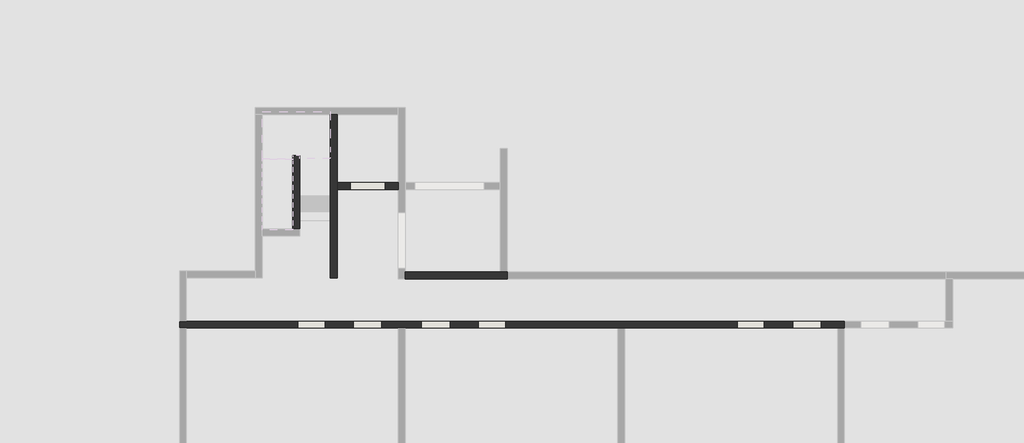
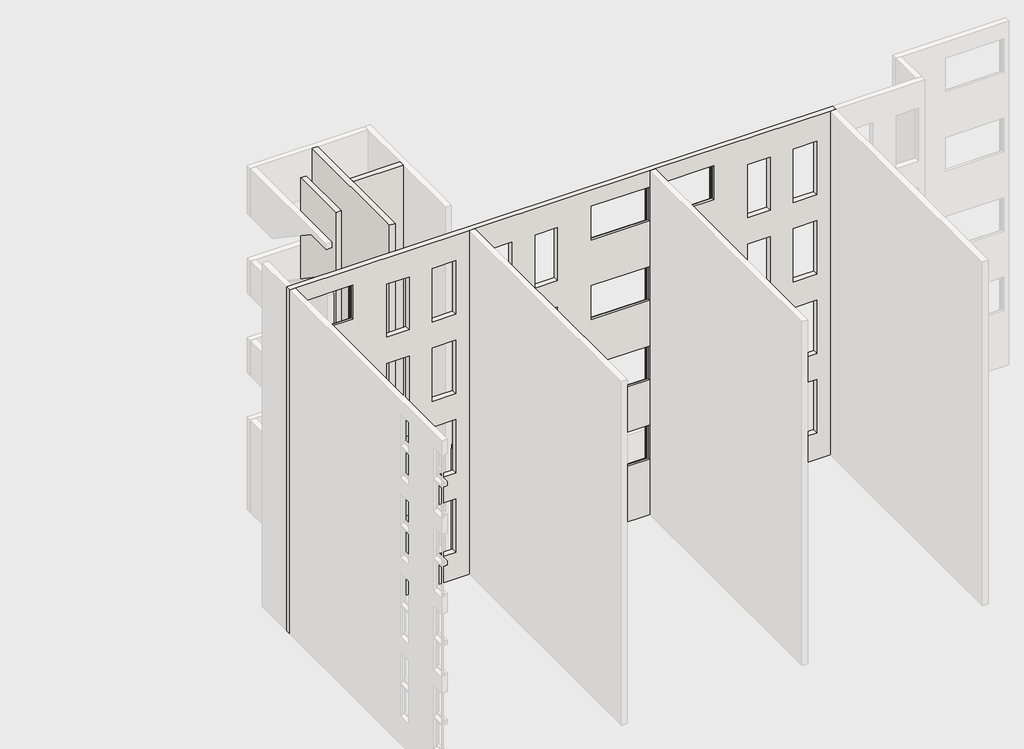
# One storey, part 2 of 4: 5 walls.
"""IFC4 building model written with IfcOpenShell, lengths in millimetres."""

from ifc_helpers import new_model, si_unit, frame, origin, place, context, project, spatial, polyline, outline, extrude, faceted_brep, element, save

model = new_model("IFC4")

# Units and contexts
model_context = context("Model", 3, world=origin())
ifc_project = project(units=[si_unit("LENGTHUNIT", "METRE", prefix="MILLI")], contexts=[model_context])

# Site, building, storey
site = spatial("IfcSite", under=ifc_project)
building = spatial("IfcBuilding", under=site)
storey = spatial("IfcBuildingStorey", under=building, Name="設計GL", Elevation=0.0)

# Walls
placement = place(None, origin())
element("IfcWall", 1, ObjectType="外壁(R)RC200", at=placement, inside=storey, context=model_context, shape_type="Brep", body=[
    faceted_brep([(-11252.4687246, -5826.3671638, -1200.0), (-11052.4687246, -5826.3671638, -1200.0), (-4828.7187246, -5826.3671638, -1200.0), (-4628.7187246, -5826.3671638, -1200.0), (1621.2812754, -5826.3671638, -1200.0), (1821.2812754, -5826.3671638, -1200.0), (8071.2812754, -5826.3671638, -1200.0), (8271.2812754, -5826.3671638, -1200.0), (8271.2812754, -5826.3671638, 13000.0), (8071.2812754, -5826.3671638, 13000.0), (1821.2812754, -5826.3671638, 13000.0), (1621.2812754, -5826.3671638, 13000.0), (-4628.7187246, -5826.3671638, 13000.0), (-4828.7187246, -5826.3671638, 13000.0), (-11052.4687246, -5826.3671638, 13000.0), (-11252.4687246, -5826.3671638, 13000.0), (-6978.7187246, -5826.3671638, 1000.0), (-7778.7187246, -5826.3671638, 1000.0), (-7778.7187246, -5826.3671638, 3000.0), (-6978.7187246, -5826.3671638, 3000.0), (-6148.7187246, -5826.3671638, 3020.0), (-5308.7187246, -5826.3671638, 3020.0), (-5308.7187246, -5826.3671638, 1000.0), (-6148.7187246, -5826.3671638, 1000.0), (-8988.7187246, -5826.3671638, 3385.0), (-8988.7187246, -5826.3671638, 2115.0), (-11068.7187246, -5826.3671638, 2115.0), (-11068.7187246, -5826.3671638, 3385.0), (1611.2812754, -5826.3671638, 3385.0), (1611.2812754, -5826.3671638, 2115.0), (-468.7187246, -5826.3671638, 2115.0), (-468.7187246, -5826.3671638, 3385.0), (-3308.7187246, -5826.3671638, 3020.0), (-3308.7187246, -5826.3671638, 1000.0), (-4148.7187246, -5826.3671638, 1000.0), (-4148.7187246, -5826.3671638, 3020.0), (-2478.7187246, -5826.3671638, 1000.0), (-2478.7187246, -5826.3671638, 3000.0), (-1678.7187246, -5826.3671638, 3000.0), (-1678.7187246, -5826.3671638, 1000.0), (3911.2812754, -5826.3671638, 3385.0), (3911.2812754, -5826.3671638, 2115.0), (1831.2812754, -5826.3671638, 2115.0), (1831.2812754, -5826.3671638, 3385.0), (6751.2812754, -5826.3671638, 3020.0), (7591.2812754, -5826.3671638, 3020.0), (7591.2812754, -5826.3671638, 1000.0), (6751.2812754, -5826.3671638, 1000.0), (5921.2812754, -5826.3671638, 1000.0), (5121.2812754, -5826.3671638, 1000.0), (5121.2812754, -5826.3671638, 3000.0), (5921.2812754, -5826.3671638, 3000.0), (3911.2812754, -5826.3671638, 6385.0), (3911.2812754, -5826.3671638, 5115.0), (1831.2812754, -5826.3671638, 5115.0), (1831.2812754, -5826.3671638, 6385.0), (6751.2812754, -5826.3671638, 6020.0), (7591.2812754, -5826.3671638, 6020.0), (7591.2812754, -5826.3671638, 4000.0), (6751.2812754, -5826.3671638, 4000.0), (5921.2812754, -5826.3671638, 4000.0), (5121.2812754, -5826.3671638, 4000.0), (5121.2812754, -5826.3671638, 6000.0), (5921.2812754, -5826.3671638, 6000.0), (1611.2812754, -5826.3671638, 6385.0), (1611.2812754, -5826.3671638, 5115.0), (-468.7187246, -5826.3671638, 5115.0), (-468.7187246, -5826.3671638, 6385.0), (-3308.7187246, -5826.3671638, 6020.0), (-3308.7187246, -5826.3671638, 4000.0), (-4148.7187246, -5826.3671638, 4000.0), (-4148.7187246, -5826.3671638, 6020.0), (-2478.7187246, -5826.3671638, 4000.0), (-2478.7187246, -5826.3671638, 6000.0), (-1678.7187246, -5826.3671638, 6000.0), (-1678.7187246, -5826.3671638, 4000.0), (-8988.7187246, -5826.3671638, 6385.0), (-8988.7187246, -5826.3671638, 5115.0), (-11068.7187246, -5826.3671638, 5115.0), (-11068.7187246, -5826.3671638, 6385.0), (-6148.7187246, -5826.3671638, 6020.0), (-5308.7187246, -5826.3671638, 6020.0), (-5308.7187246, -5826.3671638, 4000.0), (-6148.7187246, -5826.3671638, 4000.0), (-6978.7187246, -5826.3671638, 4000.0), (-7778.7187246, -5826.3671638, 4000.0), (-7778.7187246, -5826.3671638, 6000.0), (-6978.7187246, -5826.3671638, 6000.0), (3911.2812754, -5826.3671638, 9385.0), (3911.2812754, -5826.3671638, 8115.0), (1831.2812754, -5826.3671638, 8115.0), (1831.2812754, -5826.3671638, 9385.0), (6751.2812754, -5826.3671638, 9020.0), (7591.2812754, -5826.3671638, 9020.0), (7591.2812754, -5826.3671638, 7000.0), (6751.2812754, -5826.3671638, 7000.0), (5921.2812754, -5826.3671638, 7000.0), (5121.2812754, -5826.3671638, 7000.0), (5121.2812754, -5826.3671638, 9000.0), (5921.2812754, -5826.3671638, 9000.0), (1611.2812754, -5826.3671638, 9385.0), (1611.2812754, -5826.3671638, 8115.0), (-468.7187246, -5826.3671638, 8115.0), (-468.7187246, -5826.3671638, 9385.0), (-3308.7187246, -5826.3671638, 9020.0), (-3308.7187246, -5826.3671638, 7000.0), (-4148.7187246, -5826.3671638, 7000.0), (-4148.7187246, -5826.3671638, 9020.0), (-2478.7187246, -5826.3671638, 7000.0), (-2478.7187246, -5826.3671638, 9000.0), (-1678.7187246, -5826.3671638, 9000.0), (-1678.7187246, -5826.3671638, 7000.0), (-8988.7187246, -5826.3671638, 9385.0), (-8988.7187246, -5826.3671638, 8115.0), (-11068.7187246, -5826.3671638, 8115.0), (-11068.7187246, -5826.3671638, 9385.0), (-6148.7187246, -5826.3671638, 9020.0), (-5308.7187246, -5826.3671638, 9020.0), (-5308.7187246, -5826.3671638, 7000.0), (-6148.7187246, -5826.3671638, 7000.0), (-6978.7187246, -5826.3671638, 7000.0), (-7778.7187246, -5826.3671638, 7000.0), (-7778.7187246, -5826.3671638, 9000.0), (-6978.7187246, -5826.3671638, 9000.0), (3911.2812754, -5826.3671638, 12385.0), (3911.2812754, -5826.3671638, 11115.0), (1831.2812754, -5826.3671638, 11115.0), (1831.2812754, -5826.3671638, 12385.0), (6751.2812754, -5826.3671638, 12020.0), (7591.2812754, -5826.3671638, 12020.0), (7591.2812754, -5826.3671638, 10000.0), (6751.2812754, -5826.3671638, 10000.0), (5921.2812754, -5826.3671638, 10000.0), (5121.2812754, -5826.3671638, 10000.0), (5121.2812754, -5826.3671638, 12000.0), (5921.2812754, -5826.3671638, 12000.0), (1611.2812754, -5826.3671638, 12385.0), (1611.2812754, -5826.3671638, 11115.0), (-468.7187246, -5826.3671638, 11115.0), (-468.7187246, -5826.3671638, 12385.0), (-3308.7187246, -5826.3671638, 12020.0), (-3308.7187246, -5826.3671638, 10000.0), (-4148.7187246, -5826.3671638, 10000.0), (-4148.7187246, -5826.3671638, 12020.0), (-2478.7187246, -5826.3671638, 10000.0), (-2478.7187246, -5826.3671638, 12000.0), (-1678.7187246, -5826.3671638, 12000.0), (-1678.7187246, -5826.3671638, 10000.0), (-8988.7187246, -5826.3671638, 12385.0), (-8988.7187246, -5826.3671638, 11115.0), (-11068.7187246, -5826.3671638, 11115.0), (-11068.7187246, -5826.3671638, 12385.0), (-6148.7187246, -5826.3671638, 12020.0), (-5308.7187246, -5826.3671638, 12020.0), (-5308.7187246, -5826.3671638, 10000.0), (-6148.7187246, -5826.3671638, 10000.0), (-6978.7187246, -5826.3671638, 10000.0), (-7778.7187246, -5826.3671638, 10000.0), (-7778.7187246, -5826.3671638, 12000.0), (-6978.7187246, -5826.3671638, 12000.0), (-11252.4687246, -5626.3671638, -1200.0), (-11252.4687246, -5626.3671638, 13000.0), (-11052.4687246, -5626.3671638, 13000.0), (8271.2812754, -5626.3671638, 13000.0), (8271.2812754, -5626.3671638, -1200.0), (-11052.4687246, -5626.3671638, -1200.0), (-6978.7187246, -5626.3671638, 1000.0), (-6978.7187246, -5626.3671638, 3000.0), (-7778.7187246, -5626.3671638, 3000.0), (-7778.7187246, -5626.3671638, 1000.0), (-6148.7187246, -5626.3671638, 3020.0), (-6148.7187246, -5626.3671638, 1000.0), (-5308.7187246, -5626.3671638, 1000.0), (-5308.7187246, -5626.3671638, 3020.0), (-11038.7187246, -5626.3671638, 2025.0), (-9018.7187246, -5626.3671638, 2025.0), (-9018.7187246, -5626.3671638, 3360.0), (-11038.7187246, -5626.3671638, 3360.0), (-438.7187246, -5626.3671638, 2025.0), (1581.2812754, -5626.3671638, 2025.0), (1581.2812754, -5626.3671638, 3360.0), (-438.7187246, -5626.3671638, 3360.0), (-3308.7187246, -5626.3671638, 3020.0), (-4148.7187246, -5626.3671638, 3020.0), (-4148.7187246, -5626.3671638, 1000.0), (-3308.7187246, -5626.3671638, 1000.0), (-2478.7187246, -5626.3671638, 1000.0), (-1678.7187246, -5626.3671638, 1000.0), (-1678.7187246, -5626.3671638, 3000.0), (-2478.7187246, -5626.3671638, 3000.0), (1861.2812754, -5626.3671638, 2025.0), (3881.2812754, -5626.3671638, 2025.0), (3881.2812754, -5626.3671638, 3360.0), (1861.2812754, -5626.3671638, 3360.0), (6751.2812754, -5626.3671638, 3020.0), (6751.2812754, -5626.3671638, 1000.0), (7591.2812754, -5626.3671638, 1000.0), (7591.2812754, -5626.3671638, 3020.0), (5921.2812754, -5626.3671638, 1000.0), (5921.2812754, -5626.3671638, 3000.0), (5121.2812754, -5626.3671638, 3000.0), (5121.2812754, -5626.3671638, 1000.0), (1861.2812754, -5626.3671638, 5025.0), (3881.2812754, -5626.3671638, 5025.0), (3881.2812754, -5626.3671638, 6360.0), (1861.2812754, -5626.3671638, 6360.0), (6751.2812754, -5626.3671638, 6020.0), (6751.2812754, -5626.3671638, 4000.0), (7591.2812754, -5626.3671638, 4000.0), (7591.2812754, -5626.3671638, 6020.0), (5921.2812754, -5626.3671638, 4000.0), (5921.2812754, -5626.3671638, 6000.0), (5121.2812754, -5626.3671638, 6000.0), (5121.2812754, -5626.3671638, 4000.0), (-438.7187246, -5626.3671638, 5025.0), (1581.2812754, -5626.3671638, 5025.0), (1581.2812754, -5626.3671638, 6360.0), (-438.7187246, -5626.3671638, 6360.0), (-3308.7187246, -5626.3671638, 6020.0), (-4148.7187246, -5626.3671638, 6020.0), (-4148.7187246, -5626.3671638, 4000.0), (-3308.7187246, -5626.3671638, 4000.0), (-2478.7187246, -5626.3671638, 4000.0), (-1678.7187246, -5626.3671638, 4000.0), (-1678.7187246, -5626.3671638, 6000.0), (-2478.7187246, -5626.3671638, 6000.0), (-11038.7187246, -5626.3671638, 5025.0), (-9018.7187246, -5626.3671638, 5025.0), (-9018.7187246, -5626.3671638, 6360.0), (-11038.7187246, -5626.3671638, 6360.0), (-6148.7187246, -5626.3671638, 6020.0), (-6148.7187246, -5626.3671638, 4000.0), (-5308.7187246, -5626.3671638, 4000.0), (-5308.7187246, -5626.3671638, 6020.0), (-6978.7187246, -5626.3671638, 4000.0), (-6978.7187246, -5626.3671638, 6000.0), (-7778.7187246, -5626.3671638, 6000.0), (-7778.7187246, -5626.3671638, 4000.0), (1861.2812754, -5626.3671638, 8025.0), (3881.2812754, -5626.3671638, 8025.0), (3881.2812754, -5626.3671638, 9360.0), (1861.2812754, -5626.3671638, 9360.0), (6751.2812754, -5626.3671638, 9020.0), (6751.2812754, -5626.3671638, 7000.0), (7591.2812754, -5626.3671638, 7000.0), (7591.2812754, -5626.3671638, 9020.0), (5921.2812754, -5626.3671638, 7000.0), (5921.2812754, -5626.3671638, 9000.0), (5121.2812754, -5626.3671638, 9000.0), (5121.2812754, -5626.3671638, 7000.0), (-438.7187246, -5626.3671638, 8025.0), (1581.2812754, -5626.3671638, 8025.0), (1581.2812754, -5626.3671638, 9360.0), (-438.7187246, -5626.3671638, 9360.0), (-3308.7187246, -5626.3671638, 9020.0), (-4148.7187246, -5626.3671638, 9020.0), (-4148.7187246, -5626.3671638, 7000.0), (-3308.7187246, -5626.3671638, 7000.0), (-2478.7187246, -5626.3671638, 7000.0), (-1678.7187246, -5626.3671638, 7000.0), (-1678.7187246, -5626.3671638, 9000.0), (-2478.7187246, -5626.3671638, 9000.0), (-11038.7187246, -5626.3671638, 8025.0), (-9018.7187246, -5626.3671638, 8025.0), (-9018.7187246, -5626.3671638, 9360.0), (-11038.7187246, -5626.3671638, 9360.0), (-6148.7187246, -5626.3671638, 9020.0), (-6148.7187246, -5626.3671638, 7000.0), (-5308.7187246, -5626.3671638, 7000.0), (-5308.7187246, -5626.3671638, 9020.0), (-6978.7187246, -5626.3671638, 7000.0), (-6978.7187246, -5626.3671638, 9000.0), (-7778.7187246, -5626.3671638, 9000.0), (-7778.7187246, -5626.3671638, 7000.0), (1861.2812754, -5626.3671638, 11025.0), (3881.2812754, -5626.3671638, 11025.0), (3881.2812754, -5626.3671638, 12360.0), (1861.2812754, -5626.3671638, 12360.0), (6751.2812754, -5626.3671638, 12020.0), (6751.2812754, -5626.3671638, 10000.0), (7591.2812754, -5626.3671638, 10000.0), (7591.2812754, -5626.3671638, 12020.0), (5921.2812754, -5626.3671638, 10000.0), (5921.2812754, -5626.3671638, 12000.0), (5121.2812754, -5626.3671638, 12000.0), (5121.2812754, -5626.3671638, 10000.0), (-438.7187246, -5626.3671638, 11025.0), (1581.2812754, -5626.3671638, 11025.0), (1581.2812754, -5626.3671638, 12360.0), (-438.7187246, -5626.3671638, 12360.0), (-3308.7187246, -5626.3671638, 12020.0), (-4148.7187246, -5626.3671638, 12020.0), (-4148.7187246, -5626.3671638, 10000.0), (-3308.7187246, -5626.3671638, 10000.0), (-2478.7187246, -5626.3671638, 10000.0), (-1678.7187246, -5626.3671638, 10000.0), (-1678.7187246, -5626.3671638, 12000.0), (-2478.7187246, -5626.3671638, 12000.0), (-11038.7187246, -5626.3671638, 11025.0), (-9018.7187246, -5626.3671638, 11025.0), (-9018.7187246, -5626.3671638, 12360.0), (-11038.7187246, -5626.3671638, 12360.0), (-6148.7187246, -5626.3671638, 12020.0), (-6148.7187246, -5626.3671638, 10000.0), (-5308.7187246, -5626.3671638, 10000.0), (-5308.7187246, -5626.3671638, 12020.0), (-6978.7187246, -5626.3671638, 10000.0), (-6978.7187246, -5626.3671638, 12000.0), (-7778.7187246, -5626.3671638, 12000.0), (-7778.7187246, -5626.3671638, 10000.0), (-8988.7187246, -5756.3671638, 3385.0), (-8988.7187246, -5756.3671638, 2115.0), (-11068.7187246, -5756.3671638, 2115.0), (-11068.7187246, -5756.3671638, 3385.0), (-8998.7187246, -5756.3671638, 2115.0), (-11058.7187246, -5756.3671638, 2115.0), (-11058.7187246, -5756.3671638, 3380.0), (-8998.7187246, -5756.3671638, 3380.0), (-8998.7187246, -5686.3671638, 3380.0), (-8998.7187246, -5686.3671638, 2034.2307692), (-8998.7187246, -5756.3671638, 2045.0), (-11058.7187246, -5756.3671638, 2045.0), (-11058.7187246, -5686.3671638, 2034.2307692), (-11058.7187246, -5686.3671638, 3380.0), (-9018.7187246, -5686.3671638, 2034.2307692), (-11038.7187246, -5686.3671638, 2034.2307692), (-11038.7187246, -5686.3671638, 3360.0), (-9018.7187246, -5686.3671638, 3360.0), (1611.2812754, -5756.3671638, 3385.0), (1611.2812754, -5756.3671638, 2115.0), (-468.7187246, -5756.3671638, 2115.0), (-468.7187246, -5756.3671638, 3385.0), (1601.2812754, -5756.3671638, 2115.0), (-458.7187246, -5756.3671638, 2115.0), (-458.7187246, -5756.3671638, 3380.0), (1601.2812754, -5756.3671638, 3380.0), (1601.2812754, -5686.3671638, 3380.0), (1601.2812754, -5686.3671638, 2034.2307692), (1601.2812754, -5756.3671638, 2045.0), (-458.7187246, -5756.3671638, 2045.0), (-458.7187246, -5686.3671638, 2034.2307692), (-458.7187246, -5686.3671638, 3380.0), (1581.2812754, -5686.3671638, 2034.2307692), (-438.7187246, -5686.3671638, 2034.2307692), (-438.7187246, -5686.3671638, 3360.0), (1581.2812754, -5686.3671638, 3360.0), (3911.2812754, -5756.3671638, 3385.0), (3911.2812754, -5756.3671638, 2115.0), (1831.2812754, -5756.3671638, 2115.0), (1831.2812754, -5756.3671638, 3385.0), (3901.2812754, -5756.3671638, 2115.0), (1841.2812754, -5756.3671638, 2115.0), (1841.2812754, -5756.3671638, 3380.0), (3901.2812754, -5756.3671638, 3380.0), (3901.2812754, -5686.3671638, 3380.0), (3901.2812754, -5686.3671638, 2034.2307692), (3901.2812754, -5756.3671638, 2045.0), (1841.2812754, -5756.3671638, 2045.0), (1841.2812754, -5686.3671638, 2034.2307692), (1841.2812754, -5686.3671638, 3380.0), (3881.2812754, -5686.3671638, 2034.2307692), (1861.2812754, -5686.3671638, 2034.2307692), (1861.2812754, -5686.3671638, 3360.0), (3881.2812754, -5686.3671638, 3360.0), (3911.2812754, -5756.3671638, 6385.0), (3911.2812754, -5756.3671638, 5115.0), (1831.2812754, -5756.3671638, 5115.0), (1831.2812754, -5756.3671638, 6385.0), (3901.2812754, -5756.3671638, 5115.0), (1841.2812754, -5756.3671638, 5115.0), (1841.2812754, -5756.3671638, 6380.0), (3901.2812754, -5756.3671638, 6380.0), (3901.2812754, -5686.3671638, 6380.0), (3901.2812754, -5686.3671638, 5034.2307692), (3901.2812754, -5756.3671638, 5045.0), (1841.2812754, -5756.3671638, 5045.0), (1841.2812754, -5686.3671638, 5034.2307692), (1841.2812754, -5686.3671638, 6380.0), (3881.2812754, -5686.3671638, 5034.2307692), (1861.2812754, -5686.3671638, 5034.2307692), (1861.2812754, -5686.3671638, 6360.0), (3881.2812754, -5686.3671638, 6360.0), (1611.2812754, -5756.3671638, 6385.0), (1611.2812754, -5756.3671638, 5115.0), (-468.7187246, -5756.3671638, 5115.0), (-468.7187246, -5756.3671638, 6385.0), (1601.2812754, -5756.3671638, 5115.0), (-458.7187246, -5756.3671638, 5115.0), (-458.7187246, -5756.3671638, 6380.0), (1601.2812754, -5756.3671638, 6380.0), (1601.2812754, -5686.3671638, 6380.0), (1601.2812754, -5686.3671638, 5034.2307692), (1601.2812754, -5756.3671638, 5045.0), (-458.7187246, -5756.3671638, 5045.0), (-458.7187246, -5686.3671638, 5034.2307692), (-458.7187246, -5686.3671638, 6380.0), (1581.2812754, -5686.3671638, 5034.2307692), (-438.7187246, -5686.3671638, 5034.2307692), (-438.7187246, -5686.3671638, 6360.0), (1581.2812754, -5686.3671638, 6360.0), (-8988.7187246, -5756.3671638, 6385.0), (-8988.7187246, -5756.3671638, 5115.0), (-11068.7187246, -5756.3671638, 5115.0), (-11068.7187246, -5756.3671638, 6385.0), (-8998.7187246, -5756.3671638, 5115.0), (-11058.7187246, -5756.3671638, 5115.0), (-11058.7187246, -5756.3671638, 6380.0), (-8998.7187246, -5756.3671638, 6380.0), (-8998.7187246, -5686.3671638, 6380.0), (-8998.7187246, -5686.3671638, 5034.2307692), (-8998.7187246, -5756.3671638, 5045.0), (-11058.7187246, -5756.3671638, 5045.0), (-11058.7187246, -5686.3671638, 5034.2307692), (-11058.7187246, -5686.3671638, 6380.0), (-9018.7187246, -5686.3671638, 5034.2307692), (-11038.7187246, -5686.3671638, 5034.2307692), (-11038.7187246, -5686.3671638, 6360.0), (-9018.7187246, -5686.3671638, 6360.0), (3911.2812754, -5756.3671638, 9385.0), (3911.2812754, -5756.3671638, 8115.0), (1831.2812754, -5756.3671638, 8115.0), (1831.2812754, -5756.3671638, 9385.0), (3901.2812754, -5756.3671638, 8115.0), (1841.2812754, -5756.3671638, 8115.0), (1841.2812754, -5756.3671638, 9380.0), (3901.2812754, -5756.3671638, 9380.0), (3901.2812754, -5686.3671638, 9380.0), (3901.2812754, -5686.3671638, 8034.2307692), (3901.2812754, -5756.3671638, 8045.0), (1841.2812754, -5756.3671638, 8045.0), (1841.2812754, -5686.3671638, 8034.2307692), (1841.2812754, -5686.3671638, 9380.0), (3881.2812754, -5686.3671638, 8034.2307692), (1861.2812754, -5686.3671638, 8034.2307692), (1861.2812754, -5686.3671638, 9360.0), (3881.2812754, -5686.3671638, 9360.0), (1611.2812754, -5756.3671638, 9385.0), (1611.2812754, -5756.3671638, 8115.0), (-468.7187246, -5756.3671638, 8115.0), (-468.7187246, -5756.3671638, 9385.0), (1601.2812754, -5756.3671638, 8115.0), (-458.7187246, -5756.3671638, 8115.0), (-458.7187246, -5756.3671638, 9380.0), (1601.2812754, -5756.3671638, 9380.0), (1601.2812754, -5686.3671638, 9380.0), (1601.2812754, -5686.3671638, 8034.2307692), (1601.2812754, -5756.3671638, 8045.0), (-458.7187246, -5756.3671638, 8045.0), (-458.7187246, -5686.3671638, 8034.2307692), (-458.7187246, -5686.3671638, 9380.0), (1581.2812754, -5686.3671638, 8034.2307692), (-438.7187246, -5686.3671638, 8034.2307692), (-438.7187246, -5686.3671638, 9360.0), (1581.2812754, -5686.3671638, 9360.0), (-8988.7187246, -5756.3671638, 9385.0), (-8988.7187246, -5756.3671638, 8115.0), (-11068.7187246, -5756.3671638, 8115.0), (-11068.7187246, -5756.3671638, 9385.0), (-8998.7187246, -5756.3671638, 8115.0), (-11058.7187246, -5756.3671638, 8115.0), (-11058.7187246, -5756.3671638, 9380.0), (-8998.7187246, -5756.3671638, 9380.0), (-8998.7187246, -5686.3671638, 9380.0), (-8998.7187246, -5686.3671638, 8034.2307692), (-8998.7187246, -5756.3671638, 8045.0), (-11058.7187246, -5756.3671638, 8045.0), (-11058.7187246, -5686.3671638, 8034.2307692), (-11058.7187246, -5686.3671638, 9380.0), (-9018.7187246, -5686.3671638, 8034.2307692), (-11038.7187246, -5686.3671638, 8034.2307692), (-11038.7187246, -5686.3671638, 9360.0), (-9018.7187246, -5686.3671638, 9360.0), (3911.2812754, -5756.3671638, 12385.0), (3911.2812754, -5756.3671638, 11115.0), (1831.2812754, -5756.3671638, 11115.0), (1831.2812754, -5756.3671638, 12385.0), (3901.2812754, -5756.3671638, 11115.0), (1841.2812754, -5756.3671638, 11115.0), (1841.2812754, -5756.3671638, 12380.0), (3901.2812754, -5756.3671638, 12380.0), (3901.2812754, -5686.3671638, 12380.0), (3901.2812754, -5686.3671638, 11034.2307692), (3901.2812754, -5756.3671638, 11045.0), (1841.2812754, -5756.3671638, 11045.0), (1841.2812754, -5686.3671638, 11034.2307692), (1841.2812754, -5686.3671638, 12380.0), (3881.2812754, -5686.3671638, 11034.2307692), (1861.2812754, -5686.3671638, 11034.2307692), (1861.2812754, -5686.3671638, 12360.0), (3881.2812754, -5686.3671638, 12360.0), (1611.2812754, -5756.3671638, 12385.0), (1611.2812754, -5756.3671638, 11115.0), (-468.7187246, -5756.3671638, 11115.0), (-468.7187246, -5756.3671638, 12385.0), (1601.2812754, -5756.3671638, 11115.0), (-458.7187246, -5756.3671638, 11115.0), (-458.7187246, -5756.3671638, 12380.0), (1601.2812754, -5756.3671638, 12380.0), (1601.2812754, -5686.3671638, 12380.0), (1601.2812754, -5686.3671638, 11034.2307692), (1601.2812754, -5756.3671638, 11045.0), (-458.7187246, -5756.3671638, 11045.0), (-458.7187246, -5686.3671638, 11034.2307692), (-458.7187246, -5686.3671638, 12380.0), (1581.2812754, -5686.3671638, 11034.2307692), (-438.7187246, -5686.3671638, 11034.2307692), (-438.7187246, -5686.3671638, 12360.0), (1581.2812754, -5686.3671638, 12360.0), (-8988.7187246, -5756.3671638, 12385.0), (-8988.7187246, -5756.3671638, 11115.0), (-11068.7187246, -5756.3671638, 11115.0), (-11068.7187246, -5756.3671638, 12385.0), (-8998.7187246, -5756.3671638, 11115.0), (-11058.7187246, -5756.3671638, 11115.0), (-11058.7187246, -5756.3671638, 12380.0), (-8998.7187246, -5756.3671638, 12380.0), (-8998.7187246, -5686.3671638, 12380.0), (-8998.7187246, -5686.3671638, 11034.2307692), (-8998.7187246, -5756.3671638, 11045.0), (-11058.7187246, -5756.3671638, 11045.0), (-11058.7187246, -5686.3671638, 11034.2307692), (-11058.7187246, -5686.3671638, 12380.0), (-9018.7187246, -5686.3671638, 11034.2307692), (-11038.7187246, -5686.3671638, 11034.2307692), (-11038.7187246, -5686.3671638, 12360.0), (-9018.7187246, -5686.3671638, 12360.0)], [[[0, 1, 2, 3, 4, 5, 6, 7, 8, 9, 10, 11, 12, 13, 14, 15], [16, 17, 18, 19], [20, 21, 22, 23], [24, 25, 26, 27], [28, 29, 30, 31], [32, 33, 34, 35], [36, 37, 38, 39], [40, 41, 42, 43], [44, 45, 46, 47], [48, 49, 50, 51], [52, 53, 54, 55], [56, 57, 58, 59], [60, 61, 62, 63], [64, 65, 66, 67], [68, 69, 70, 71], [72, 73, 74, 75], [76, 77, 78, 79], [80, 81, 82, 83], [84, 85, 86, 87], [88, 89, 90, 91], [92, 93, 94, 95], [96, 97, 98, 99], [100, 101, 102, 103], [104, 105, 106, 107], [108, 109, 110, 111], [112, 113, 114, 115], [116, 117, 118, 119], [120, 121, 122, 123], [124, 125, 126, 127], [128, 129, 130, 131], [132, 133, 134, 135], [136, 137, 138, 139], [140, 141, 142, 143], [144, 145, 146, 147], [148, 149, 150, 151], [152, 153, 154, 155], [156, 157, 158, 159]], [[160, 161, 162, 163, 164, 165], [166, 167, 168, 169], [170, 171, 172, 173], [174, 175, 176, 177], [178, 179, 180, 181], [182, 183, 184, 185], [186, 187, 188, 189], [190, 191, 192, 193], [194, 195, 196, 197], [198, 199, 200, 201], [202, 203, 204, 205], [206, 207, 208, 209], [210, 211, 212, 213], [214, 215, 216, 217], [218, 219, 220, 221], [222, 223, 224, 225], [226, 227, 228, 229], [230, 231, 232, 233], [234, 235, 236, 237], [238, 239, 240, 241], [242, 243, 244, 245], [246, 247, 248, 249], [250, 251, 252, 253], [254, 255, 256, 257], [258, 259, 260, 261], [262, 263, 264, 265], [266, 267, 268, 269], [270, 271, 272, 273], [274, 275, 276, 277], [278, 279, 280, 281], [282, 283, 284, 285], [286, 287, 288, 289], [290, 291, 292, 293], [294, 295, 296, 297], [298, 299, 300, 301], [302, 303, 304, 305], [306, 307, 308, 309]], [[7, 6, 5, 4, 3, 2, 1, 0, 160, 165, 164]], [[15, 14, 13, 12, 11, 10, 9, 8, 163, 162, 161]], [[167, 166, 16, 19]], [[168, 167, 19, 18]], [[169, 168, 18, 17]], [[166, 169, 17, 16]], [[171, 170, 20, 23]], [[172, 171, 23, 22]], [[173, 172, 22, 21]], [[170, 173, 21, 20]], [[310, 311, 25, 24]], [[312, 313, 27, 26]], [[25, 311, 314, 315, 312, 26]], [[311, 310, 313, 312, 315, 316, 317, 314]], [[313, 310, 24, 27]], [[317, 318, 319, 320, 314]], [[321, 322, 323, 316, 315]], [[320, 319, 324, 175, 174, 325, 322, 321]], [[319, 318, 323, 322, 325, 326, 327, 324]], [[318, 317, 316, 323]], [[320, 321, 315, 314]], [[327, 176, 175, 324]], [[325, 174, 177, 326]], [[176, 327, 326, 177]], [[328, 329, 29, 28]], [[330, 331, 31, 30]], [[29, 329, 332, 333, 330, 30]], [[329, 328, 331, 330, 333, 334, 335, 332]], [[331, 328, 28, 31]], [[335, 336, 337, 338, 332]], [[339, 340, 341, 334, 333]], [[338, 337, 342, 179, 178, 343, 340, 339]], [[337, 336, 341, 340, 343, 344, 345, 342]], [[336, 335, 334, 341]], [[338, 339, 333, 332]], [[345, 180, 179, 342]], [[343, 178, 181, 344]], [[180, 345, 344, 181]], [[33, 32, 182, 185]], [[34, 33, 185, 184]], [[35, 34, 184, 183]], [[32, 35, 183, 182]], [[37, 36, 186, 189]], [[38, 37, 189, 188]], [[39, 38, 188, 187]], [[36, 39, 187, 186]], [[346, 347, 41, 40]], [[348, 349, 43, 42]], [[41, 347, 350, 351, 348, 42]], [[347, 346, 349, 348, 351, 352, 353, 350]], [[349, 346, 40, 43]], [[353, 354, 355, 356, 350]], [[357, 358, 359, 352, 351]], [[356, 355, 360, 191, 190, 361, 358, 357]], [[355, 354, 359, 358, 361, 362, 363, 360]], [[354, 353, 352, 359]], [[356, 357, 351, 350]], [[363, 192, 191, 360]], [[361, 190, 193, 362]], [[192, 363, 362, 193]], [[195, 194, 44, 47]], [[196, 195, 47, 46]], [[197, 196, 46, 45]], [[194, 197, 45, 44]], [[199, 198, 48, 51]], [[200, 199, 51, 50]], [[201, 200, 50, 49]], [[198, 201, 49, 48]], [[8, 7, 164, 163]], [[364, 365, 53, 52]], [[366, 367, 55, 54]], [[53, 365, 368, 369, 366, 54]], [[365, 364, 367, 366, 369, 370, 371, 368]], [[367, 364, 52, 55]], [[371, 372, 373, 374, 368]], [[375, 376, 377, 370, 369]], [[374, 373, 378, 203, 202, 379, 376, 375]], [[373, 372, 377, 376, 379, 380, 381, 378]], [[372, 371, 370, 377]], [[374, 375, 369, 368]], [[381, 204, 203, 378]], [[379, 202, 205, 380]], [[204, 381, 380, 205]], [[207, 206, 56, 59]], [[208, 207, 59, 58]], [[209, 208, 58, 57]], [[206, 209, 57, 56]], [[211, 210, 60, 63]], [[212, 211, 63, 62]], [[213, 212, 62, 61]], [[210, 213, 61, 60]], [[382, 383, 65, 64]], [[384, 385, 67, 66]], [[65, 383, 386, 387, 384, 66]], [[383, 382, 385, 384, 387, 388, 389, 386]], [[385, 382, 64, 67]], [[389, 390, 391, 392, 386]], [[393, 394, 395, 388, 387]], [[392, 391, 396, 215, 214, 397, 394, 393]], [[391, 390, 395, 394, 397, 398, 399, 396]], [[390, 389, 388, 395]], [[392, 393, 387, 386]], [[399, 216, 215, 396]], [[397, 214, 217, 398]], [[216, 399, 398, 217]], [[69, 68, 218, 221]], [[70, 69, 221, 220]], [[71, 70, 220, 219]], [[68, 71, 219, 218]], [[73, 72, 222, 225]], [[74, 73, 225, 224]], [[75, 74, 224, 223]], [[72, 75, 223, 222]], [[400, 401, 77, 76]], [[402, 403, 79, 78]], [[77, 401, 404, 405, 402, 78]], [[401, 400, 403, 402, 405, 406, 407, 404]], [[403, 400, 76, 79]], [[407, 408, 409, 410, 404]], [[411, 412, 413, 406, 405]], [[410, 409, 414, 227, 226, 415, 412, 411]], [[409, 408, 413, 412, 415, 416, 417, 414]], [[408, 407, 406, 413]], [[410, 411, 405, 404]], [[417, 228, 227, 414]], [[415, 226, 229, 416]], [[228, 417, 416, 229]], [[231, 230, 80, 83]], [[232, 231, 83, 82]], [[233, 232, 82, 81]], [[230, 233, 81, 80]], [[235, 234, 84, 87]], [[236, 235, 87, 86]], [[237, 236, 86, 85]], [[234, 237, 85, 84]], [[418, 419, 89, 88]], [[420, 421, 91, 90]], [[89, 419, 422, 423, 420, 90]], [[419, 418, 421, 420, 423, 424, 425, 422]], [[421, 418, 88, 91]], [[425, 426, 427, 428, 422]], [[429, 430, 431, 424, 423]], [[428, 427, 432, 239, 238, 433, 430, 429]], [[427, 426, 431, 430, 433, 434, 435, 432]], [[426, 425, 424, 431]], [[428, 429, 423, 422]], [[435, 240, 239, 432]], [[433, 238, 241, 434]], [[240, 435, 434, 241]], [[243, 242, 92, 95]], [[244, 243, 95, 94]], [[245, 244, 94, 93]], [[242, 245, 93, 92]], [[247, 246, 96, 99]], [[248, 247, 99, 98]], [[249, 248, 98, 97]], [[246, 249, 97, 96]], [[436, 437, 101, 100]], [[438, 439, 103, 102]], [[101, 437, 440, 441, 438, 102]], [[437, 436, 439, 438, 441, 442, 443, 440]], [[439, 436, 100, 103]], [[443, 444, 445, 446, 440]], [[447, 448, 449, 442, 441]], [[446, 445, 450, 251, 250, 451, 448, 447]], [[445, 444, 449, 448, 451, 452, 453, 450]], [[444, 443, 442, 449]], [[446, 447, 441, 440]], [[453, 252, 251, 450]], [[451, 250, 253, 452]], [[252, 453, 452, 253]], [[105, 104, 254, 257]], [[106, 105, 257, 256]], [[107, 106, 256, 255]], [[104, 107, 255, 254]], [[109, 108, 258, 261]], [[110, 109, 261, 260]], [[111, 110, 260, 259]], [[108, 111, 259, 258]], [[454, 455, 113, 112]], [[456, 457, 115, 114]], [[113, 455, 458, 459, 456, 114]], [[455, 454, 457, 456, 459, 460, 461, 458]], [[457, 454, 112, 115]], [[461, 462, 463, 464, 458]], [[465, 466, 467, 460, 459]], [[464, 463, 468, 263, 262, 469, 466, 465]], [[463, 462, 467, 466, 469, 470, 471, 468]], [[462, 461, 460, 467]], [[464, 465, 459, 458]], [[471, 264, 263, 468]], [[469, 262, 265, 470]], [[264, 471, 470, 265]], [[267, 266, 116, 119]], [[268, 267, 119, 118]], [[269, 268, 118, 117]], [[266, 269, 117, 116]], [[271, 270, 120, 123]], [[272, 271, 123, 122]], [[273, 272, 122, 121]], [[270, 273, 121, 120]], [[472, 473, 125, 124]], [[474, 475, 127, 126]], [[125, 473, 476, 477, 474, 126]], [[473, 472, 475, 474, 477, 478, 479, 476]], [[475, 472, 124, 127]], [[479, 480, 481, 482, 476]], [[483, 484, 485, 478, 477]], [[482, 481, 486, 275, 274, 487, 484, 483]], [[481, 480, 485, 484, 487, 488, 489, 486]], [[480, 479, 478, 485]], [[482, 483, 477, 476]], [[489, 276, 275, 486]], [[487, 274, 277, 488]], [[276, 489, 488, 277]], [[279, 278, 128, 131]], [[280, 279, 131, 130]], [[281, 280, 130, 129]], [[278, 281, 129, 128]], [[283, 282, 132, 135]], [[284, 283, 135, 134]], [[285, 284, 134, 133]], [[282, 285, 133, 132]], [[490, 491, 137, 136]], [[492, 493, 139, 138]], [[137, 491, 494, 495, 492, 138]], [[491, 490, 493, 492, 495, 496, 497, 494]], [[493, 490, 136, 139]], [[497, 498, 499, 500, 494]], [[501, 502, 503, 496, 495]], [[500, 499, 504, 287, 286, 505, 502, 501]], [[499, 498, 503, 502, 505, 506, 507, 504]], [[498, 497, 496, 503]], [[500, 501, 495, 494]], [[507, 288, 287, 504]], [[505, 286, 289, 506]], [[288, 507, 506, 289]], [[141, 140, 290, 293]], [[142, 141, 293, 292]], [[143, 142, 292, 291]], [[140, 143, 291, 290]], [[145, 144, 294, 297]], [[146, 145, 297, 296]], [[147, 146, 296, 295]], [[144, 147, 295, 294]], [[508, 509, 149, 148]], [[510, 511, 151, 150]], [[149, 509, 512, 513, 510, 150]], [[509, 508, 511, 510, 513, 514, 515, 512]], [[511, 508, 148, 151]], [[515, 516, 517, 518, 512]], [[519, 520, 521, 514, 513]], [[518, 517, 522, 299, 298, 523, 520, 519]], [[517, 516, 521, 520, 523, 524, 525, 522]], [[516, 515, 514, 521]], [[518, 519, 513, 512]], [[525, 300, 299, 522]], [[523, 298, 301, 524]], [[300, 525, 524, 301]], [[303, 302, 152, 155]], [[304, 303, 155, 154]], [[305, 304, 154, 153]], [[302, 305, 153, 152]], [[307, 306, 156, 159]], [[308, 307, 159, 158]], [[309, 308, 158, 157]], [[306, 309, 157, 156]], [[0, 15, 161, 160]]]),
])
element("IfcWall", 2, ObjectType="(R)RC200", at=placement, inside=storey, context=model_context, shape_type="Brep", body=[
    faceted_brep([(-7928.7187246, -750.1171638, -1200.0), (-7928.7187246, -2920.1171638, -1200.0), (-7928.7187246, -2920.1171638, 13000.0), (-7928.7187246, -750.1171638, 13000.0), (-7728.7187246, -750.1171638, -1200.0), (-7728.7187246, -750.1171638, 13000.0), (-7728.7187246, -2920.1171638, 13000.0), (-7728.7187246, -2920.1171638, 11100.0), (-7728.7187246, -2920.1171638, 9950.0), (-7728.7187246, -2920.1171638, 4000.0), (-7728.7187246, -2920.1171638, -1200.0)], [[[0, 1, 2, 3]], [[4, 5, 6, 7, 8, 9, 10]], [[1, 0, 4, 10]], [[3, 2, 6, 5]], [[0, 3, 5, 4]], [[1, 10, 9, 8, 7, 6, 2]]]),
])
element("IfcWall", 3, ObjectType="(R)RC200", at=placement, inside=storey, context=model_context, shape_type="Brep", body=[
    faceted_brep([(-6828.7187246, 449.8828362, 13000.0), (-6828.7187246, 449.8828362, 11181.7647059), (-6828.7187246, 449.8828362, 9500.0), (-6828.7187246, 449.8828362, 8181.7647059), (-6828.7187246, 449.8828362, 6500.0), (-6828.7187246, 449.8828362, 5181.7647059), (-6828.7187246, 449.8828362, 3500.0), (-6828.7187246, 449.8828362, -1200.0), (-6828.7187246, -4350.1171638, -1200.0), (-6828.7187246, -4350.1171638, 13000.0), (-6628.7187246, 449.8828362, -1200.0), (-6628.7187246, 449.8828362, 13000.0), (-6628.7187246, -1550.1171638, 13000.0), (-6628.7187246, -1750.1171638, 13000.0), (-6628.7187246, -4350.1171638, 13000.0), (-6628.7187246, -4350.1171638, -1200.0), (-6628.7187246, -1750.1171638, -1200.0), (-6628.7187246, -1550.1171638, -1200.0)], [[[0, 1, 2, 3, 4, 5, 6, 7, 8, 9]], [[10, 11, 12, 13, 14, 15, 16, 17]], [[8, 7, 10, 17, 16, 15]], [[9, 8, 15, 14]], [[0, 9, 14, 13, 12, 11]], [[0, 11, 10, 7, 6, 5, 4, 3, 2, 1]]]),
])
element("IfcWall", 4, ObjectType="(R)RC200", at=placement, inside=storey, context=model_context, shape_type="SweptSolid", body=[
    extrude(outline(polyline([(-1200.0, -4828.7187246), (13000.0, -4828.7187246), (13000.0, -6628.7187246), (-1200.0, -6628.7187246), (-1200.0, -4828.7187246)]), holes=[polyline([(3100.0, -6238.7187246), (3100.0, -5218.7187246), (1000.0, -5218.7187246), (1000.0, -6238.7187246), (3100.0, -6238.7187246)])]), frame((0.0, -1750.1171638, 0.0), z_axis=(0.0, 1.0, 0.0), x_axis=(0.0, 0.0, 1.0)), (0.0, 0.0, 1.0), 200.0),
])
element("IfcWall", 5, ObjectType="(R)RC200", at=placement, inside=storey, context=model_context, shape_type="Brep", body=[
    faceted_brep([(-4628.7187246, -4376.3671638, -1200.0), (-1628.7187246, -4376.3671638, -1200.0), (-1628.7187246, -4376.3671638, 2100.0), (-1628.7187246, -4376.3671638, 3800.0), (-4628.7187246, -4376.3671638, 3800.0), (-1628.7187246, -4176.3671638, -1200.0), (-1828.7187246, -4176.3671638, -1200.0), (-4628.7187246, -4176.3671638, -1200.0), (-4628.7187246, -4176.3671638, 3800.0), (-1628.7187246, -4176.3671638, 3800.0), (-1628.7187246, -4176.3671638, 2100.0)], [[[0, 1, 2, 3, 4]], [[5, 6, 7, 8, 9, 10]], [[1, 0, 7, 6, 5]], [[1, 5, 10, 9, 3, 2]], [[7, 0, 4, 8]], [[4, 3, 9, 8]]]),
])

save(model, "model.ifc")
